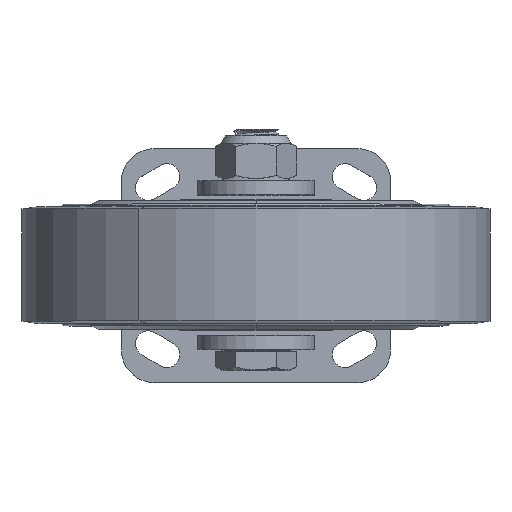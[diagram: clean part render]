
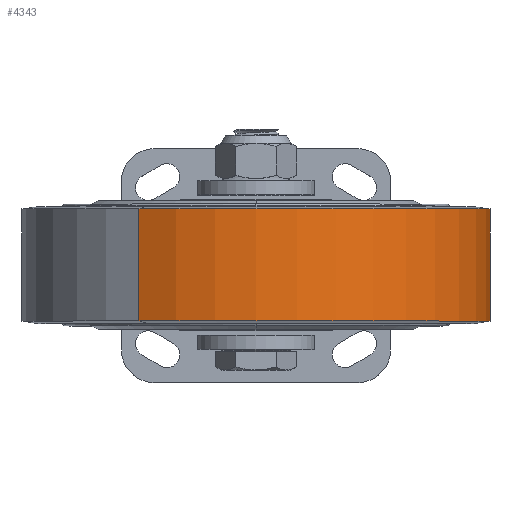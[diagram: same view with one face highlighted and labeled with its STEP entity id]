
A CAD part, top view. The second image highlights one B-rep face of the part: STEP entity #4343.
In plain terms, the highlighted cylindrical face has radius 100 mm (diameter 200 mm), a partial arc.
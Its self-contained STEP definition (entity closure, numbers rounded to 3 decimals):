
#3652=DIRECTION('',(0.,-1.,0.));
#3653=VECTOR('',#3652,48.);
#3654=CARTESIAN_POINT('',(-50.,24.,226.603));
#3655=LINE('',#3654,#3653);
#3656=DIRECTION('',(0.,-1.,0.));
#3657=VECTOR('',#3656,48.);
#3658=CARTESIAN_POINT('',(50.,24.,53.397));
#3659=LINE('',#3658,#3657);
#3665=CARTESIAN_POINT('',(0.,24.,140.));
#3666=DIRECTION('',(0.,1.,0.));
#3667=DIRECTION('',(-0.5,0.,0.866));
#3668=AXIS2_PLACEMENT_3D('',#3665,#3666,#3667);
#3670=CARTESIAN_POINT('',(0.,-24.,140.));
#3671=DIRECTION('',(0.,1.,0.));
#3672=DIRECTION('',(-0.5,0.,0.866));
#3673=AXIS2_PLACEMENT_3D('',#3670,#3671,#3672);
#4011=CARTESIAN_POINT('',(-50.,24.,226.603));
#4013=VERTEX_POINT('',#4011);
#4014=CARTESIAN_POINT('',(-50.,-24.,226.603));
#4015=VERTEX_POINT('',#4014);
#4023=CARTESIAN_POINT('',(50.,24.,53.397));
#4025=VERTEX_POINT('',#4023);
#4026=CARTESIAN_POINT('',(50.,-24.,53.397));
#4027=VERTEX_POINT('',#4026);
#4331=CARTESIAN_POINT('',(0.,-27.5,140.));
#4332=DIRECTION('',(0.,1.,0.));
#4333=DIRECTION('',(0.5,0.,-0.866));
#4334=AXIS2_PLACEMENT_3D('',#4331,#4332,#4333);
#4335=CYLINDRICAL_SURFACE('',#4334,100.);
#4336=ORIENTED_EDGE('',*,*,#4314,.F.);
#4337=ORIENTED_EDGE('',*,*,#4277,.T.);
#4338=ORIENTED_EDGE('',*,*,#4318,.T.);
#4340=ORIENTED_EDGE('',*,*,#4339,.F.);
#4341=EDGE_LOOP('',(#4336,#4337,#4338,#4340));
#4342=FACE_OUTER_BOUND('',#4341,.F.);
#3669=CIRCLE('',#3668,100.);
#3674=CIRCLE('',#3673,100.);
#4277=EDGE_CURVE('',#4013,#4025,#3669,.T.);
#4314=EDGE_CURVE('',#4013,#4015,#3655,.T.);
#4318=EDGE_CURVE('',#4025,#4027,#3659,.T.);
#4339=EDGE_CURVE('',#4015,#4027,#3674,.T.);
#4343=ADVANCED_FACE('',(#4342),#4335,.T.);
